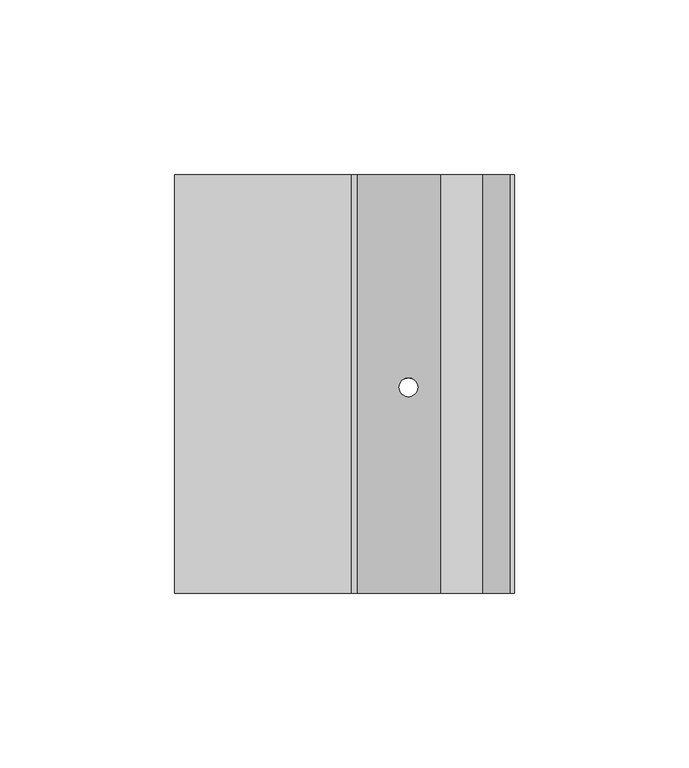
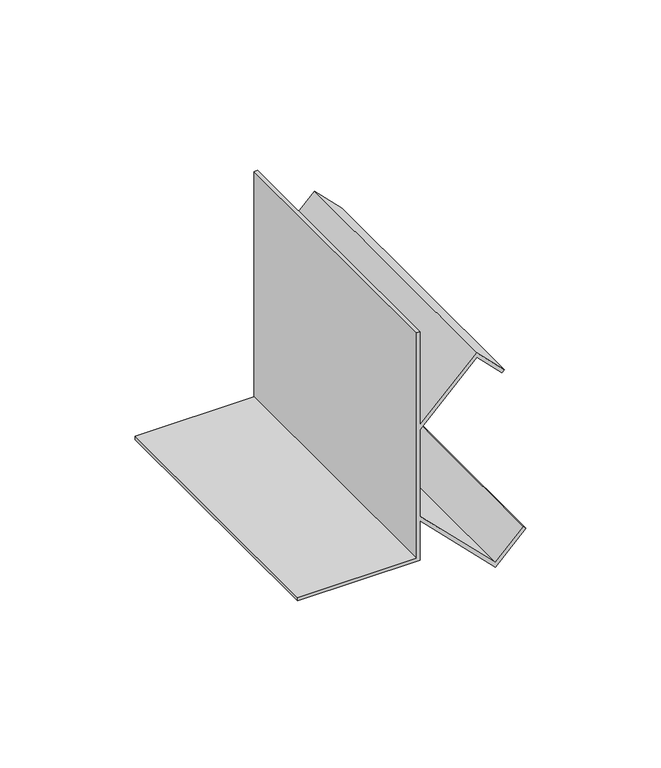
"""IFC4 building model written with IfcOpenShell, lengths in millimetres: proxy geometry, Mechanical Fittings & Accessories26 : Mechanical Fittings & Accessories."""

from ifc_helpers import new_model, si_unit, frame, origin, place, context, project, spatial, polyline, ellipse_curve, source, transform, mapped, element, save
from ifc_brep_helpers import plane_surface, revolved_surface, advanced_brep


def generic_models_7c0987e7(model_context):
    return source(origin(), model_context, "Body", "AdvancedBrep", [
        advanced_brep(
        [(-13439.8639562, 7051.4963986, 4114.8), (-13490.6639562, 7051.4963986, 4114.8), (-13490.6639562, 7051.4963986, 4113.3117188), (-13438.375675, 7051.4963986, 4113.3117188), (-13438.375675, 7051.4963986, 4131.1383509), (-13406.265914, 7051.4963986, 4099.0285899), (-13393.2869427, 7051.4963986, 4112.0075612), (-13394.3393164, 7051.4963986, 4113.059935), (-13406.265914, 7051.4963986, 4101.1333374), (-13438.375675, 7051.4963986, 4133.2430984), (-13438.375675, 7051.4963986, 4172.2761118), (-13414.203414, 7051.4963986, 4196.4483729), (-13403.4674414, 7051.4963986, 4185.7124003), (-13402.4150677, 7051.4963986, 4186.7647741), (-13414.203414, 7051.4963986, 4198.5531204), (-13438.375675, 7051.4963986, 4174.3808594), (-13438.375675, 7051.4963986, 4216.4), (-13439.8639562, 7051.4963986, 4216.4), (-13439.8639562, 7171.4645457, 4114.8), (-13439.8639562, 7171.4645457, 4216.4), (-13438.375675, 7171.4645457, 4216.4), (-13438.375675, 7171.4645457, 4174.3808594), (-13414.203414, 7171.4645457, 4198.5531204), (-13402.4150677, 7171.4645457, 4186.7647741), (-13403.4674414, 7171.4645457, 4185.7124003), (-13414.203414, 7171.4645457, 4196.4483729), (-13438.375675, 7171.4645457, 4172.2761118), (-13438.375675, 7171.4645457, 4133.2430984), (-13406.265914, 7171.4645457, 4101.1333374), (-13394.3393164, 7171.4645457, 4113.059935), (-13393.2869427, 7171.4645457, 4112.0075612), (-13406.265914, 7171.4645457, 4099.0285899), (-13438.375675, 7171.4645457, 4131.1383509), (-13438.375675, 7171.4645457, 4113.3117188), (-13490.6639562, 7171.4645457, 4113.3117188), (-13490.6639562, 7171.4645457, 4114.8), (-13426.2617646, 7110.5191481, 4119.0244406), (-13420.9223978, 7110.5191481, 4113.6850737), (-13420.9223978, 7110.5191481, 4115.7898213), (-13426.2617646, 7110.5191481, 4121.1291881), (-13426.2617646, 7110.5191481, 4184.3900222), (-13420.9223978, 7110.5191481, 4189.729389), (-13420.9223978, 7110.5191481, 4191.8341365), (-13426.2617646, 7110.5191481, 4186.4947697)],
        [
            (0, 1),
            (1, 2),
            (2, 3),
            (3, 4),
            (4, 5),
            (5, 6),
            (6, 7),
            (7, 8),
            (8, 9),
            (9, 10),
            (10, 11),
            (11, 12),
            (12, 13),
            (13, 14),
            (14, 15),
            (15, 16),
            (16, 17),
            (17, 0),
            (18, 19),
            (19, 20),
            (20, 21),
            (21, 22),
            (22, 23),
            (23, 24),
            (24, 25),
            (25, 26),
            (26, 27),
            (27, 28),
            (28, 29),
            (29, 30),
            (30, 31),
            (31, 32),
            (32, 33),
            (33, 34),
            (34, 35),
            (35, 18),
            (0, 18),
            (35, 1),
            (34, 2),
            (33, 3),
            (32, 4),
            (31, 5),
            (36, 37, ellipse_curve(frame((-13423.5920812, 7110.5191481, 4116.3547571), z_axis=(0.7071067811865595, 0.0, 0.7071067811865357), x_axis=(-0.7071067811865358, 0.0, 0.7071067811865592)), 3.7755025, 2.6696834)),
            (37, 36, ellipse_curve(frame((-13423.5920812, 7110.5191481, 4116.3547571), z_axis=(0.7071067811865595, 0.0, 0.7071067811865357), x_axis=(-0.7071067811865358, 0.0, 0.7071067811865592)), 3.7755025, 2.6696834)),
            (30, 6),
            (29, 7),
            (28, 8),
            (27, 9),
            (38, 39, ellipse_curve(frame((-13423.5920812, 7110.5191481, 4118.4595047), z_axis=(-0.7071067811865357, 0.0, -0.7071067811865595), x_axis=(-0.7071067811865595, 0.0, 0.7071067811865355)), 3.7755025, 2.6696834)),
            (39, 38, ellipse_curve(frame((-13423.5920812, 7110.5191481, 4118.4595047), z_axis=(-0.7071067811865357, 0.0, -0.7071067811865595), x_axis=(-0.7071067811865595, 0.0, 0.7071067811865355)), 3.7755025, 2.6696834)),
            (26, 10),
            (25, 11),
            (40, 41, ellipse_curve(frame((-13423.5920812, 7110.5191481, 4187.0597056), z_axis=(-0.7071067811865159, 0.0, 0.7071067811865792), x_axis=(0.7071067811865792, 0.0, 0.7071067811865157)), 3.7755025, 2.6696834)),
            (41, 40, ellipse_curve(frame((-13423.5920812, 7110.5191481, 4187.0597056), z_axis=(-0.7071067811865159, 0.0, 0.7071067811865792), x_axis=(0.7071067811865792, 0.0, 0.7071067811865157)), 3.7755025, 2.6696834)),
            (24, 12),
            (23, 13),
            (22, 14),
            (21, 15),
            (42, 43, ellipse_curve(frame((-13423.5920812, 7110.5191481, 4189.1644531), z_axis=(0.7071067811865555, 0.0, -0.7071067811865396), x_axis=(0.7071067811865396, 0.0, 0.7071067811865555)), 3.7755025, 2.6696834)),
            (43, 42, ellipse_curve(frame((-13423.5920812, 7110.5191481, 4189.1644531), z_axis=(0.7071067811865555, 0.0, -0.7071067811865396), x_axis=(0.7071067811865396, 0.0, 0.7071067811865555)), 3.7755025, 2.6696834)),
            (20, 16),
            (19, 17),
            (36, 39),
            (38, 37),
            (40, 43),
            (42, 41),
        ],
        [
            plane_surface(frame((-13490.6639562, 7051.4963986, 4114.8), z_axis=(0.0, -1.0, 0.0), x_axis=(-1.0, 0.0, 0.0))),
            plane_surface(frame((-13490.6639562, 7171.4645457, 4114.8), z_axis=(0.0, 1.0, 0.0), x_axis=(1.0, 0.0, 0.0))),
            plane_surface(frame((-13439.8639562, 7051.4963986, 4114.8), z_axis=(0.0, 0.0, 1.0), x_axis=(0.0, 1.0, 0.0))),
            plane_surface(frame((-13490.6639562, 7051.4963986, 4114.8), z_axis=(-1.0, 0.0, 1.4551915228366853e-12), x_axis=(0.0, 1.0, 0.0))),
            plane_surface(frame((-13490.6639562, 7051.4963986, 4113.3117188), z_axis=(0.0, 0.0, -1.0), x_axis=(0.0, 1.0, 0.0))),
            plane_surface(frame((-13438.375675, 7051.4963986, 4113.3117188), z_axis=(1.0, 0.0, 0.0), x_axis=(0.0, 1.0, 0.0))),
            plane_surface(frame((-13438.375675, 7051.4963986, 4131.1383509), z_axis=(-0.7071067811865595, 0.0, -0.7071067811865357), x_axis=(0.0, 1.0, 0.0))),
            plane_surface(frame((-13406.265914, 7051.4963986, 4099.0285899), z_axis=(0.7071067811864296, 0.0, -0.7071067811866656), x_axis=(0.0, 1.0, 0.0))),
            plane_surface(frame((-13393.2869427, 7051.4963986, 4112.0075612), z_axis=(0.7071067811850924, 0.0, 0.7071067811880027), x_axis=(0.0, 1.0, 0.0))),
            plane_surface(frame((-13394.3393164, 7051.4963986, 4113.059935), z_axis=(-0.7071067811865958, 0.0, 0.7071067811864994), x_axis=(0.0, 1.0, 0.0))),
            plane_surface(frame((-13406.265914, 7051.4963986, 4101.1333374), z_axis=(0.7071067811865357, 0.0, 0.7071067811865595), x_axis=(0.0, 1.0, 0.0))),
            plane_surface(frame((-13438.375675, 7051.4963986, 4133.2430984), z_axis=(1.0, 0.0, 0.0), x_axis=(0.0, 1.0, 0.0))),
            plane_surface(frame((-13438.375675, 7051.4963986, 4172.2761118), z_axis=(0.7071067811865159, 0.0, -0.7071067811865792), x_axis=(0.0, 1.0, 0.0))),
            plane_surface(frame((-13414.203414, 7051.4963986, 4196.4483729), z_axis=(-0.7071067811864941, 0.0, -0.7071067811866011), x_axis=(0.0, 1.0, 0.0))),
            plane_surface(frame((-13403.4674414, 7051.4963986, 4185.7124003), z_axis=(0.7071067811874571, 0.0, -0.7071067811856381), x_axis=(0.0, 1.0, 0.0))),
            plane_surface(frame((-13402.4150677, 7051.4963986, 4186.7647741), z_axis=(0.707106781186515, 0.0, 0.70710678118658), x_axis=(0.0, 1.0, 0.0))),
            plane_surface(frame((-13414.203414, 7051.4963986, 4198.5531204), z_axis=(-0.7071067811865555, 0.0, 0.7071067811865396), x_axis=(0.0, 1.0, 0.0))),
            plane_surface(frame((-13438.375675, 7051.4963986, 4174.3808594), z_axis=(1.0, 0.0, 0.0), x_axis=(0.0, 1.0, 0.0))),
            plane_surface(frame((-13438.375675, 7051.4963986, 4216.4), z_axis=(0.0, 0.0, 1.0), x_axis=(0.0, 1.0, 0.0))),
            plane_surface(frame((-13439.8639562, 7051.4963986, 4216.4), z_axis=(-1.0, 0.0, 0.0), x_axis=(0.0, 1.0, 0.0))),
            revolved_surface(polyline([(-13420.9223978, 7110.5191481, 4121.129188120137), (-13420.9223978, 7110.5191481, 4113.685073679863)]), (-13423.5920812, 7110.5191481, 4097.2034211), (0.0, 0.0, 1.0)),
            revolved_surface(polyline([(-13420.9223978, 7110.5191481, 4191.834136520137), (-13420.9223978, 7110.5191481, 4184.390022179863)]), (-13423.5920812, 7110.5191481, 4097.2034211), (0.0, 0.0, 1.0)),
        ],
        [
            (0, [[1, 2, 3, 4, 5, 6, 7, 8, 9, 10, 11, 12, 13, 14, 15, 16, 17, 18]]),
            (1, [[19, 20, 21, 22, 23, 24, 25, 26, 27, 28, 29, 30, 31, 32, 33, 34, 35, 36]]),
            (2, [[-1, 37, -36, 38]]),
            (3, [[-2, -38, -35, 39]]),
            (4, [[-3, -39, -34, 40]]),
            (5, [[-4, -40, -33, 41]]),
            (6, [[-5, -41, -32, 42], [43, 44]]),
            (7, [[-6, -42, -31, 45]]),
            (8, [[-7, -45, -30, 46]]),
            (9, [[-8, -46, -29, 47]]),
            (10, [[-9, -47, -28, 48], [49, 50]]),
            (11, [[-10, -48, -27, 51]]),
            (12, [[-11, -51, -26, 52], [53, 54]]),
            (13, [[-12, -52, -25, 55]]),
            (14, [[-13, -55, -24, 56]]),
            (15, [[-14, -56, -23, 57]]),
            (16, [[-15, -57, -22, 58], [59, 60]]),
            (17, [[-16, -58, -21, 61]]),
            (18, [[-17, -61, -20, 62]]),
            (19, [[-18, -62, -19, -37]]),
            (20, [[63, -49, 64, -43]]),
            (21, [[65, -59, 66, -53]]),
            (20, [[-63, -44, -64, -50]]),
            (21, [[-65, -54, -66, -60]]),
        ],
    ),
    ])


if __name__ == "__main__":
    model = new_model("IFC4")
    model_context = context("Model", 3, world=origin())
    ifc_project = project(units=[si_unit("LENGTHUNIT", "METRE", prefix="MILLI")], contexts=[model_context])
    site = spatial("IfcSite", under=ifc_project)
    building = spatial("IfcBuilding", under=site)
    placement = place(None, origin())
    generic_models_shape = generic_models_7c0987e7(model_context)
    element("IfcBuildingElementProxy", 1, Name="Mechanical Fittings & Accessories26 : Mechanical Fittings & Accessories", ObjectType="Mechanical Fittings & Accessories26 : Mechanical Fittings & Accessories", at=placement, inside=building, context=model_context, shape_type="MappedRepresentation", body=[
        mapped(generic_models_shape, transform((0.0, 0.0, 0.0), x_axis=(1.0, 0.0, 0.0), y_axis=(0.0, 1.0, 0.0), z_axis=(0.0, 0.0, 1.0))),
    ])
    save(model, "model.ifc")
